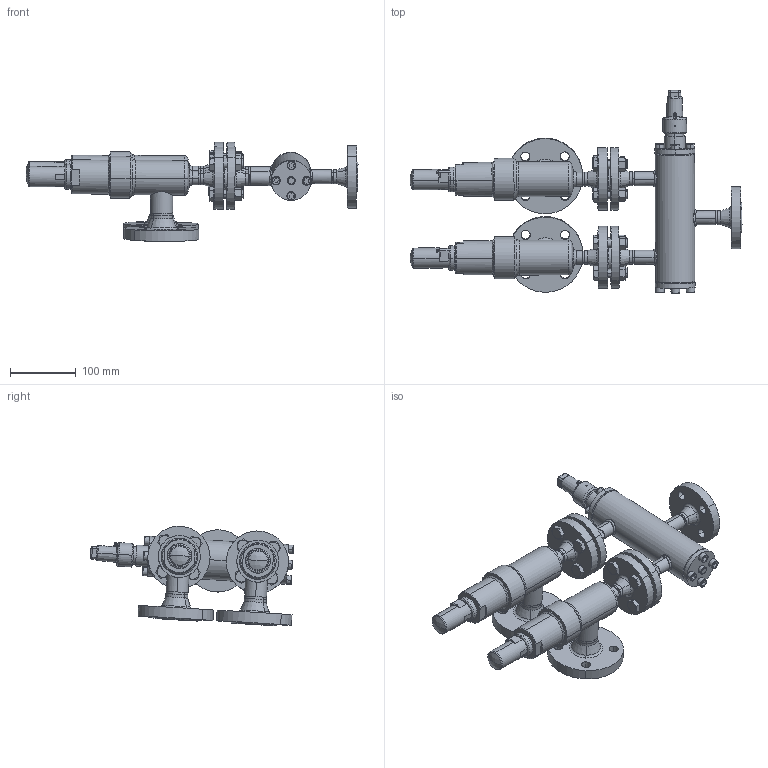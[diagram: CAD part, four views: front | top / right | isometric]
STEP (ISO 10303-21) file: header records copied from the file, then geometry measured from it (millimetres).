
FILE_DESCRIPTION (( 'STEP AP214' ), '1' );
FILE_NAME ('WVR-SVUA_1C7FL_DN15_DIN-FL_seitlich.STEP', '2010-09-08T11:12:41', ( 'Eckhard Grams' ), ( 'AWP Kälte Klima Armaturen GmbH' ), 'SwSTEP 2.0', 'SolidWorks 2002296', '' );
FILE_SCHEMA (( 'AUTOMOTIVE_DESIGN' ));
Length unit declared in the file: millimetre
Products named in the file (31): WVR-SVUA_1C7FL_DN15_DIN-FL_seitlich; SVUA 45820D10-DN15(25)_DIN; Flachdichtg-Alu-DN15; Gehkpl 45720E10-5030001; Geh 45700E10-5034004_DN15; Rohrstutzen-A 45700E10-5036004_DN15(25)_Standard; Flansch-DIN2635-Nut_PS40_DIN-Flansch-DN025_PS40-Nut; bead Geh,kpl 45720E10-2_Standard; bead Geh,kpl 45720E10-1_Standard; Haube 45700E10-5260003_DN15; Kappe SVA-SVU-ORV_DN10-40 (M27x1,5)_Standard; WVR24020D10-DN015_DIN-FL-N-F_PS40_Standard; Geh,kpl24020E10-DN15_DIN-FL-N-F_PS40_Standard; Geh,kpl24000E10_DN15_R1_PS40_Standard; Gehäuse24000E10-DN15_R1_PS40_Standard; Rohrstutzen-24000E10-DN15_R1_Standard; Schw-24000E10-DN15_Standard; Flansch-DIN2635-Nut_PS40_DIN-Flansch-DN015_PS40-Nut; Flansch-DIN2635-Feder_PS40_DIN-Flansch-DN015_PS40-Feder; bead24020-10-3_Standard; bead24020-10-2_Standard; bead24020-10-1_Standard; AVR26300K10_Deck+Schr-DN10-20_Standard; Deckel26300K10-DN10-20_Standard; Zylinderschraube-DIN912_M 8x  16; Kappe 96300E10_DN6-20 (M27x2)_Standard; WVB-R23000K10_Deck+Schr-DN10-20_Standard; Zylinderschraube-DIN912_M 8x  25; Deckel24000E10-DN10-20_Standard; Sechskantschraube-DIN933_M12x 45; Sechskantmutter-DIN934_M12
Assembly tree (57 placements, depth 5):
  WVR-SVUA_1C7FL_DN15_DIN-FL_seitlich
    Sechskantschraube-DIN933_M12x 45  x8
    Sechskantmutter-DIN934_M12  x8
    SVUA 45820D10-DN15(25)_DIN  x2
      Flachdichtg-Alu-DN15
      Haube 45700E10-5260003_DN15
      Gehkpl 45720E10-5030001
        Flansch-DIN2635-Nut_PS40_DIN-Flansch-DN015_PS40-Nut
        Flansch-DIN2635-Nut_PS40_DIN-Flansch-DN025_PS40-Nut
        bead Geh,kpl 45720E10-2_Standard
        bead Geh,kpl 45720E10-1_Standard
        Rohrstutzen-A 45700E10-5036004_DN15(25)_Standard
        Geh 45700E10-5034004_DN15
      Kappe SVA-SVU-ORV_DN10-40 (M27x1,5)_Standard
    WVR24020D10-DN015_DIN-FL-N-F_PS40_Standard
      AVR26300K10_Deck+Schr-DN10-20_Standard
        Zylinderschraube-DIN912_M 8x  16  x4
        Deckel26300K10-DN10-20_Standard
      Kappe 96300E10_DN6-20 (M27x2)_Standard
      WVB-R23000K10_Deck+Schr-DN10-20_Standard
        Zylinderschraube-DIN912_M 8x  25  x4
        Deckel24000E10-DN10-20_Standard
      Geh,kpl24020E10-DN15_DIN-FL-N-F_PS40_Standard
        bead24020-10-2_Standard
        Flansch-DIN2635-Nut_PS40_DIN-Flansch-DN015_PS40-Nut
        bead24020-10-3_Standard
        Flansch-DIN2635-Feder_PS40_DIN-Flansch-DN015_PS40-Feder  x2
        Geh,kpl24000E10_DN15_R1_PS40_Standard
          Schw-24000E10-DN15_Standard  x3
          Rohrstutzen-24000E10-DN15_R1_Standard  x3
          Gehäuse24000E10-DN15_R1_PS40_Standard
        bead24020-10-1_Standard
Bounding box: 506.89 x 310.16 x 151.85 mm (x, y, z)
Volume: 1853133.5 mm3; surface area: 525526.2 mm2
Topology: 58 solids, 58 shells, 1366 faces, 3163 edges, 1975 vertices
Faces by surface type: cylinder 506, plane 378, cone 321, torus 99, bspline 54, sphere 8
Entity records: 42059 total; most frequent: CARTESIAN_POINT 25434, DIRECTION 3057, ORIENTED_EDGE 2862, EDGE_CURVE 1431, AXIS2_PLACEMENT_3D 1294, VERTEX_POINT 894, EDGE_LOOP 725, CIRCLE 652
